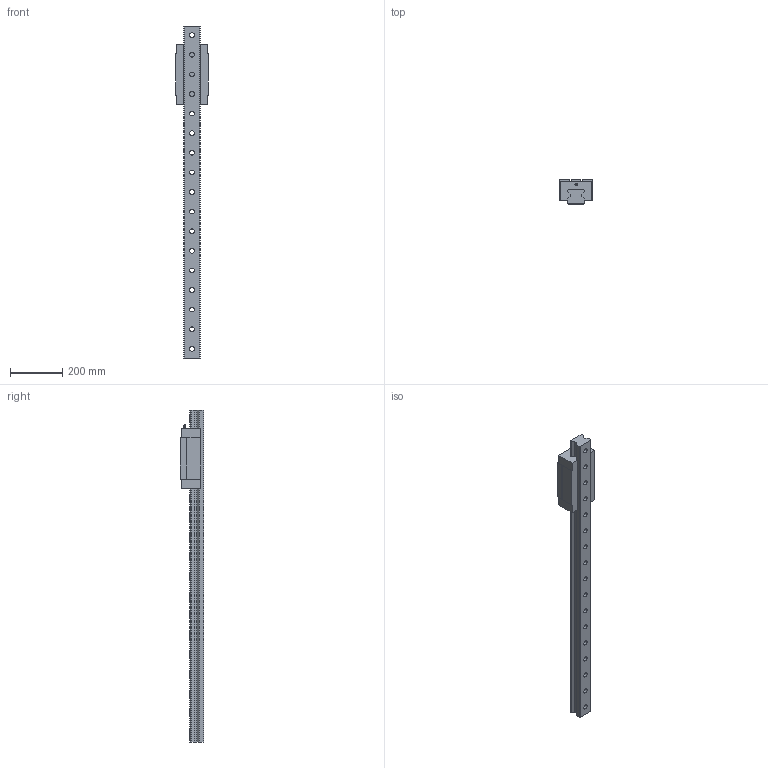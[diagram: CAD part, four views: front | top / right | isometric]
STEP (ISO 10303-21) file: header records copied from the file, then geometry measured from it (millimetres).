
FILE_DESCRIPTION(('STEP AP214'),'1');
FILE_NAME('D:/ModelConvertServices/Model.001/SVC.ACISConvertServices001/output/21a85525-1af7-4e96-97cf-7ed8603177d2/1_RGH65CA1R1270ZOH.step','2022-07-22T10:25:24',(' '),(' '),'Spatial InterOp 3D',' ',' ');
FILE_SCHEMA(('automotive_design'));
Length unit declared in the file: millimetre
Products named in the file (2): 1; 2
Bounding box: 126 x 90 x 1270 mm (x, y, z)
Volume: 5090272.6 mm3; surface area: 503368.8 mm2
Topology: 2 solids, 2 shells, 294 faces, 725 edges, 472 vertices
Faces by surface type: plane 142, cylinder 120, cone 30, sphere 2
Entity records: 11206 total; most frequent: CARTESIAN_POINT 1651, DIRECTION 1543, ORIENTED_EDGE 1446, EDGE_CURVE 723, AXIS2_PLACEMENT_3D 572, VERTEX_POINT 472, LINE 399, VECTOR 399
